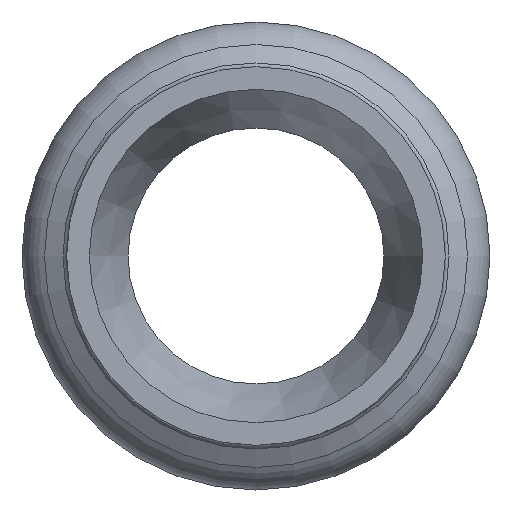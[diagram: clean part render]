
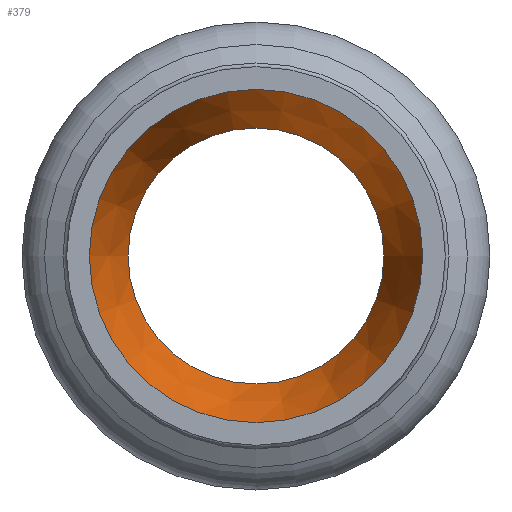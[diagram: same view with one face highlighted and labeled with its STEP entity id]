
A CAD part, left-side view. The second image highlights one B-rep face of the part: STEP entity #379.
In plain terms, the highlighted conical face has half-angle 20 degrees and reference radius 9.878 mm.
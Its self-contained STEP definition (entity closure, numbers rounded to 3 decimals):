
#348=CARTESIAN_POINT('',(35.075,-8.5,0.));
#349=VERTEX_POINT('',#348);
#350=CARTESIAN_POINT('',(35.075,0.0,0.0));
#351=DIRECTION('',(1.0,0.0,0.0));
#352=DIRECTION('',(0.0,1.0,0.0));
#353=AXIS2_PLACEMENT_3D('',#350,#351,#352);
#354=CIRCLE('',#353,8.5);
#355=EDGE_CURVE('',#349,#349,#354,.T.);
#360=CARTESIAN_POINT('',(31.289,0.0,0.0));
#361=DIRECTION('',(-1.0,0.0,0.0));
#362=DIRECTION('',(0.0,1.0,0.0));
#363=AXIS2_PLACEMENT_3D('',#360,#361,#362);
#364=CONICAL_SURFACE('',#363,9.878,20.);
#365=ORIENTED_EDGE('',*,*,#355,.T.);
#366=EDGE_LOOP('',(#365));
#367=FACE_OUTER_BOUND('',#366,.T.);
#368=CARTESIAN_POINT('',(28.,-11.075,0.));
#369=VERTEX_POINT('',#368);
#370=CARTESIAN_POINT('',(28.,0.0,0.0));
#371=DIRECTION('',(-1.0,0.0,0.0));
#372=DIRECTION('',(0.0,1.0,0.0));
#373=AXIS2_PLACEMENT_3D('',#370,#371,#372);
#374=CIRCLE('',#373,11.075);
#375=EDGE_CURVE('',#369,#369,#374,.F.);
#376=ORIENTED_EDGE('',*,*,#375,.F.);
#377=EDGE_LOOP('',(#376));
#378=FACE_BOUND('',#377,.T.);
#379=ADVANCED_FACE('',(#367,#378),#364,.F.);
